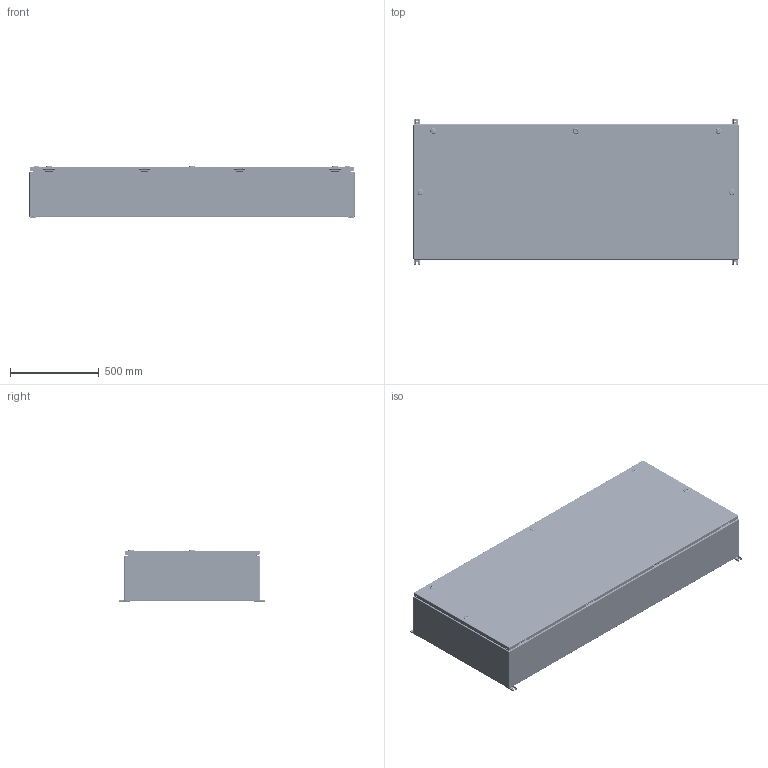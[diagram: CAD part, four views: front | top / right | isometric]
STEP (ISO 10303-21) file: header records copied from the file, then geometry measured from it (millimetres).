
FILE_DESCRIPTION(/* description */ ('1412BTSSCU 1200A - 4 Wires x 72" Assembly'),/* implementation_level */ '2;1');
FILE_NAME(/* name */ 'C:\Vault_Workspace\Inventor_Dwg\BoxCad\Result\1412BTSSCU061204\e-mail\3D\1412BTSSCU061204.stp',/* time_stamp */ '2022-09-14T09:00:42-04:00',/* author */ ('BoxCad'),/* organization */ (''),/* preprocessor_version */ 'ST-DEVELOPER v18.1',/* originating_system */ 'Autodesk Inventor 2020',/* authorisation */ '');
FILE_SCHEMA (('AUTOMOTIVE_DESIGN { 1 0 10303 214 3 1 1 }'));
Products named in the file (53): 1412BTSSCU061204; 1412BTSSCU061204B; 1412BTSSCU061204B-P; STK-Q-16020; 1412BTSSCU061204C; 1412BTSSCU061204C-P; 1412BTSSCU061204G; STK-Q-16095; STK-K-09850-1; STK-Q-33019; STK-Q-90111; STK-Q-40096; STK-Q-63412; STK-S-00100; STK-A-880SCQ4-SLSS6-1; STK-A-880SCQ4-SLSS6-2; STK-A-880SCQ4-SLSS6-3; STK-A-880SCQ4-SLSS6-4; STK-A-880SCQ4-SLSS6-5; STK-Q-70621; STK-Q-70631; STK-Q-78145; STK-Q-03200; STK-Q-78125; STK-Q-90390; STK-Q-78160; STK-Q-78141; 1412BTSSCU061204IP1; 1412BTSSCU061204IP1-P; STK-P-02401S; STK-Q-07610; STK-A-67400; STK-Q-67400; STK-G-22300; STK-Q-67420; STK-Q-40800; STK-Q-67430; STK-Q-07310; 1412BTSSCU061204BAR1-P; 1412BTSSCU061204BAR2-P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
Assembly tree (144 placements, depth 4):
  1412BTSSCU061204
    1412BTSSCU061204B
      1412BTSSCU061204B-P
      STK-Q-16095
      STK-Q-16020  x8
      STK-S-00100
    1412BTSSCU061204C
      1412BTSSCU061204C-P
      1412BTSSCU061204G
      STK-Q-16095
      STK-K-09850-1  x4
        STK-Q-33019
        STK-Q-90111
        STK-Q-40096
        STK-Q-63412
      STK-S-00100
      STK-A-880SCQ4-SLSS6-1
        STK-Q-70621
        STK-Q-70631
        STK-Q-78145
        STK-Q-03200
        STK-Q-78125
        STK-Q-90390
        STK-Q-78160
        STK-Q-78141
      STK-A-880SCQ4-SLSS6-2
        STK-Q-70621
        STK-Q-70631
        STK-Q-78145
        STK-Q-03200
        STK-Q-78125
        STK-Q-90390
        STK-Q-78160
        STK-Q-78141
      STK-A-880SCQ4-SLSS6-3
        STK-Q-70621
        STK-Q-70631
        STK-Q-78145
        STK-Q-03200
        STK-Q-78125
        STK-Q-90390
        STK-Q-78160
        STK-Q-78141
      STK-A-880SCQ4-SLSS6-4
        STK-Q-70621
        STK-Q-70631
        STK-Q-78145
        STK-Q-03200
        STK-Q-78125
        STK-Q-90390
        STK-Q-78160
        STK-Q-78141
      STK-A-880SCQ4-SLSS6-5
        STK-Q-70621
        STK-Q-70631
        STK-Q-78145
        STK-Q-03200
        STK-Q-78125
        STK-Q-90390
        STK-Q-78160
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Bounding box: 1828.8 x 819.15 x 294.2 mm (x, y, z)
Volume: 15009225 mm3; surface area: 12534265.4 mm2
Topology: 216 solids, 216 shells, 31995 faces, 84227 edges, 52657 vertices
Faces by surface type: plane 11950, bspline 8984, cylinder 7841, torus 2203, sphere 650, cone 367
Full cylindrical faces by diameter (mm): 0.75 x10, 0.762 x10, 1 x16, 1.1 x16, 3.2 x8, 4.5 x48, 4.85 x32, 4.917 x4, 4.95 x8, 5.1 x55, 5.9 x94, 6.65 x12, 6.655 x8, 6.85 x72, 7.366 x8, 7.8 x492, 8 x34, 8.25 x24, 8.6 x12, 9.6 x5, 9.7 x48, 9.906 x4, 10 x9, 10.312 x2, 11.5 x24, 12 x16, 12.7 x2, 12.8 x5, 13 x5, 14 x8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
Entity records: 205624 total; most frequent: CARTESIAN_POINT 82777, ORIENTED_EDGE 27550, DIRECTION 21254, EDGE_CURVE 13775, VERTEX_POINT 8796, AXIS2_PLACEMENT_3D 7272, LINE 6710, VECTOR 6710
